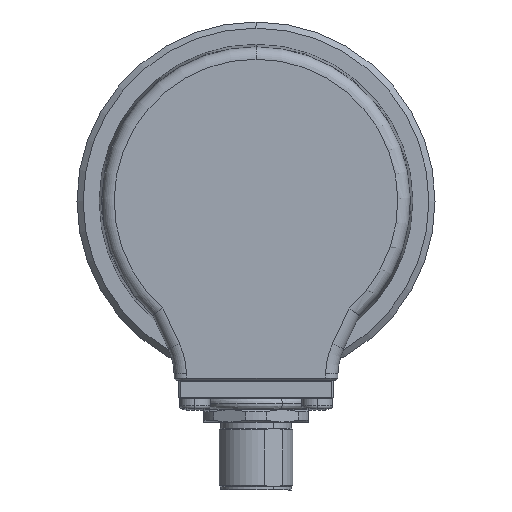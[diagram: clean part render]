
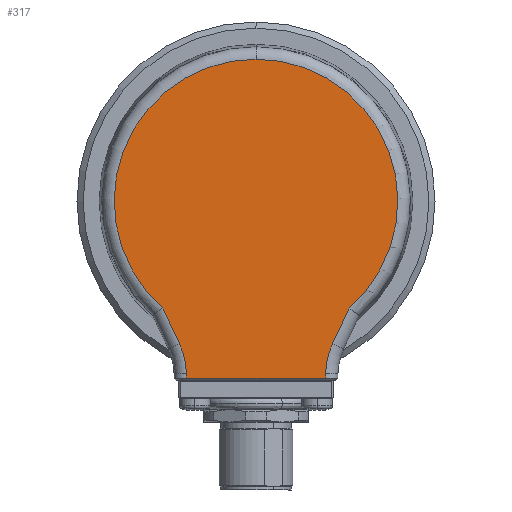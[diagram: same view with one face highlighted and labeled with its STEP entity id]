
A CAD part, left-side view. The second image highlights one B-rep face of the part: STEP entity #317.
In plain terms, the highlighted planar face has unit normal (-1, 0, 0).
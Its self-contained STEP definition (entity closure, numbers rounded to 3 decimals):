
#263 = CARTESIAN_POINT ( 'NONE',  ( -21., 23.266, -28.183 ) ) ;
#317 = ADVANCED_FACE ( 'NONE', ( #14775 ), #12906, .F. ) ;
#509 = DIRECTION ( 'NONE',  ( 0., -1., 0. ) ) ;
#685 = EDGE_CURVE ( 'NONE', #15557, #6229, #5953, .T. ) ;
#709 = AXIS2_PLACEMENT_3D ( 'NONE', #11534, #2425, #13075 ) ;
#941 = CARTESIAN_POINT ( 'NONE',  ( -21., 0., 22.972 ) ) ;
#962 = CIRCLE ( 'NONE', #16111, 12. ) ;
#1797 = DIRECTION ( 'NONE',  ( 0., 0., 1. ) ) ;
#1845 = ORIENTED_EDGE ( 'NONE', *, *, #685, .T. ) ;
#2425 = DIRECTION ( 'NONE',  ( -1., 0., 0. ) ) ;
#2569 = VERTEX_POINT ( 'NONE', #15336 ) ;
#2599 = VERTEX_POINT ( 'NONE', #18460 ) ;
#3075 = LINE ( 'NONE', #16264, #6180 ) ;
#3278 = CARTESIAN_POINT ( 'NONE',  ( -21., 0., 0. ) ) ;
#3604 = CIRCLE ( 'NONE', #5816, 22.972 ) ;
#3765 = VECTOR ( 'NONE', #509, 1000. ) ;
#4064 = DIRECTION ( 'NONE',  ( 0., -0.423, -0.906 ) ) ;
#4086 = VERTEX_POINT ( 'NONE', #5124 ) ;
#4266 = VECTOR ( 'NONE', #9514, 1000. ) ;
#4430 = CARTESIAN_POINT ( 'NONE',  ( -21., -11.752, -0.205 ) ) ;
#4571 = DIRECTION ( 'NONE',  ( 0., -0.017, 1. ) ) ;
#4823 = DIRECTION ( 'NONE',  ( 0., 0., 1. ) ) ;
#5047 = EDGE_CURVE ( 'NONE', #2599, #19139, #16992, .T. ) ;
#5103 = CARTESIAN_POINT ( 'NONE',  ( -21., -12.39, -23.112 ) ) ;
#5124 = CARTESIAN_POINT ( 'NONE',  ( -21., 11.255, -28.695 ) ) ;
#5334 = DIRECTION ( 'NONE',  ( 0., 0., 1. ) ) ;
#5816 = AXIS2_PLACEMENT_3D ( 'NONE', #3278, #13922, #4823 ) ;
#5953 = CIRCLE ( 'NONE', #709, 22.972 ) ;
#6180 = VECTOR ( 'NONE', #4064, 1000. ) ;
#6186 = CARTESIAN_POINT ( 'NONE',  ( -21., -23.266, -28.183 ) ) ;
#6229 = VERTEX_POINT ( 'NONE', #7443 ) ;
#6299 = EDGE_CURVE ( 'NONE', #19139, #10155, #12568, .T. ) ;
#6906 = LINE ( 'NONE', #14345, #18578 ) ;
#7443 = CARTESIAN_POINT ( 'NONE',  ( -21., 15.091, -17.32 ) ) ;
#7701 = DIRECTION ( 'NONE',  ( 0., 0., 1. ) ) ;
#7803 = LINE ( 'NONE', #13175, #3765 ) ;
#8303 = LINE ( 'NONE', #17103, #4266 ) ;
#8635 = AXIS2_PLACEMENT_3D ( 'NONE', #15453, #14436, #5334 ) ;
#8657 = ORIENTED_EDGE ( 'NONE', *, *, #5047, .T. ) ;
#9129 = EDGE_CURVE ( 'NONE', #16222, #2569, #962, .T. ) ;
#9397 = DIRECTION ( 'NONE',  ( 0., -0.423, 0.906 ) ) ;
#9514 = DIRECTION ( 'NONE',  ( 0., -0.017, -1. ) ) ;
#9874 = EDGE_CURVE ( 'NONE', #6229, #16222, #3075, .T. ) ;
#9995 = EDGE_LOOP ( 'NONE', ( #13156, #14172, #8657, #10575, #16710, #13948, #1845, #18343, #13559 ) ) ;
#10155 = VERTEX_POINT ( 'NONE', #5103 ) ;
#10575 = ORIENTED_EDGE ( 'NONE', *, *, #6299, .T. ) ;
#10619 = EDGE_CURVE ( 'NONE', #4086, #2599, #7803, .T. ) ;
#10922 = DIRECTION ( 'NONE',  ( 1., 0., 0. ) ) ;
#11534 = CARTESIAN_POINT ( 'NONE',  ( -21., 0., 0. ) ) ;
#12103 = AXIS2_PLACEMENT_3D ( 'NONE', #6186, #16834, #7701 ) ;
#12568 = CIRCLE ( 'NONE', #12103, 12. ) ;
#12906 = PLANE ( 'NONE',  #8635 ) ;
#13075 = DIRECTION ( 'NONE',  ( 0., 0., 1. ) ) ;
#13156 = ORIENTED_EDGE ( 'NONE', *, *, #16289, .T. ) ;
#13175 = CARTESIAN_POINT ( 'NONE',  ( -21., -11.25, -28.695 ) ) ;
#13263 = CARTESIAN_POINT ( 'NONE',  ( -21., 12.39, -23.112 ) ) ;
#13298 = VERTEX_POINT ( 'NONE', #18087 ) ;
#13430 = EDGE_CURVE ( 'NONE', #13298, #15557, #3604, .T. ) ;
#13559 = ORIENTED_EDGE ( 'NONE', *, *, #9129, .T. ) ;
#13922 = DIRECTION ( 'NONE',  ( -1., 0., 0. ) ) ;
#13948 = ORIENTED_EDGE ( 'NONE', *, *, #13430, .T. ) ;
#14172 = ORIENTED_EDGE ( 'NONE', *, *, #10619, .T. ) ;
#14345 = CARTESIAN_POINT ( 'NONE',  ( -21., -14.953, -17.615 ) ) ;
#14436 = DIRECTION ( 'NONE',  ( 1., 0., 0. ) ) ;
#14775 = FACE_OUTER_BOUND ( 'NONE', #9995, .T. ) ;
#15336 = CARTESIAN_POINT ( 'NONE',  ( -21., 11.268, -27.974 ) ) ;
#15453 = CARTESIAN_POINT ( 'NONE',  ( -21., 0., 0. ) ) ;
#15557 = VERTEX_POINT ( 'NONE', #941 ) ;
#16111 = AXIS2_PLACEMENT_3D ( 'NONE', #263, #10922, #1797 ) ;
#16222 = VERTEX_POINT ( 'NONE', #13263 ) ;
#16264 = CARTESIAN_POINT ( 'NONE',  ( -21., 12.39, -23.112 ) ) ;
#16289 = EDGE_CURVE ( 'NONE', #2569, #4086, #8303, .T. ) ;
#16710 = ORIENTED_EDGE ( 'NONE', *, *, #19041, .T. ) ;
#16834 = DIRECTION ( 'NONE',  ( 1., 0., 0. ) ) ;
#16992 = LINE ( 'NONE', #4430, #17478 ) ;
#17103 = CARTESIAN_POINT ( 'NONE',  ( -21., 11.752, -0.205 ) ) ;
#17478 = VECTOR ( 'NONE', #4571, 1000. ) ;
#17618 = CARTESIAN_POINT ( 'NONE',  ( -21., -11.268, -27.974 ) ) ;
#18087 = CARTESIAN_POINT ( 'NONE',  ( -21., -15.091, -17.32 ) ) ;
#18343 = ORIENTED_EDGE ( 'NONE', *, *, #9874, .T. ) ;
#18460 = CARTESIAN_POINT ( 'NONE',  ( -21., -11.255, -28.695 ) ) ;
#18578 = VECTOR ( 'NONE', #9397, 1000. ) ;
#19041 = EDGE_CURVE ( 'NONE', #10155, #13298, #6906, .T. ) ;
#19139 = VERTEX_POINT ( 'NONE', #17618 ) ;
